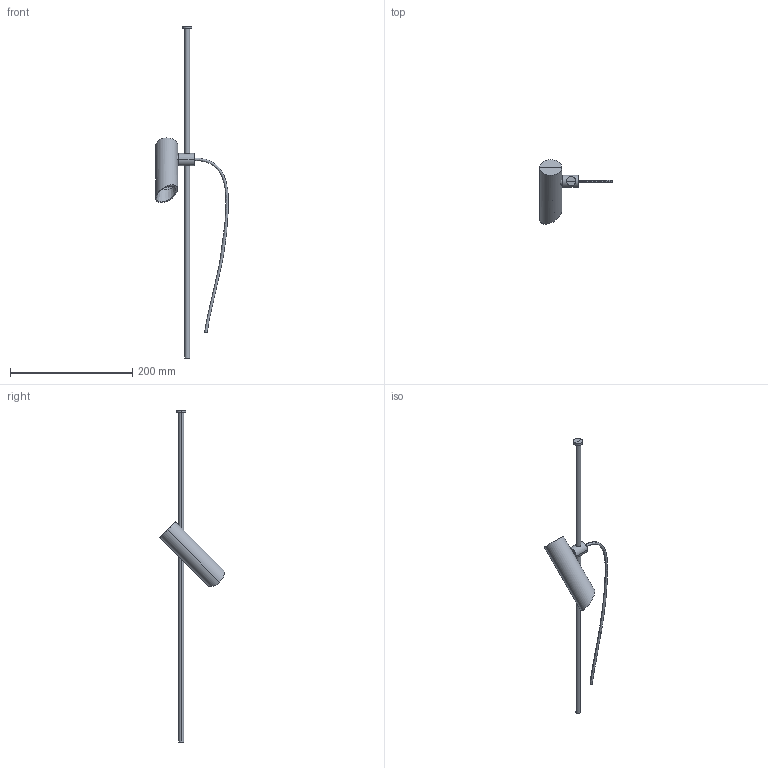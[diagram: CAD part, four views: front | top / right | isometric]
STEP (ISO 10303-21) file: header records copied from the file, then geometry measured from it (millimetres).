
FILE_DESCRIPTION(/* description */ (''),/* implementation_level */ '2;1');
FILE_NAME(/* name */ 'clap_spike_630.step',/* time_stamp */ '2025-02-26T11:23:33+01:00',/* author */ ('RenataManzini'),/* organization */ (''),/* preprocessor_version */ 'ST-DEVELOPER v20',/* originating_system */ 'AutoCAD Mechanical',/* authorisation */ '');
FILE_SCHEMA (('AUTOMOTIVE_DESIGN { 1 0 10303 214 3 1 1 }'));
Length unit declared in the file: millimetre
Products named in the file (4): Product; CLAP_ lamp - CLAP Proyector-489792-_3D_; CLAP_ pantalla_l - CLAP Accesorio pantalla L negro-491335-_3D_; CLAP_ pantalla_s - CLAP Accesorio pantalla S negro-491296-_3D_
Assembly tree (4 placements, depth 2):
  Product
    CLAP_ pantalla_s - CLAP Accesorio pantalla S negro-491296-_3D_  x2
    CLAP_ lamp - CLAP Proyector-489792-_3D_
    CLAP_ pantalla_l - CLAP Accesorio pantalla L negro-491335-_3D_
Bounding box: 118.59 x 105.8 x 543 mm (x, y, z)
Volume: 123677.7 mm3; surface area: 44307.7 mm2
Topology: 6 solids, 6 shells, 51 faces, 86 edges, 48 vertices
Faces by surface type: plane 27, cylinder 18, cone 4, bspline 2
Entity records: 2509 total; most frequent: CARTESIAN_POINT 1466, DIRECTION 226, ORIENTED_EDGE 172, AXIS2_PLACEMENT_3D 95, EDGE_CURVE 86, EDGE_LOOP 54, FACE_OUTER_BOUND 51, ADVANCED_FACE 51
